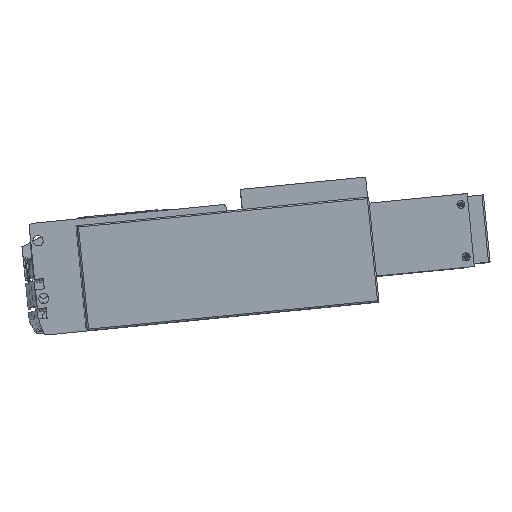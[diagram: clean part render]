
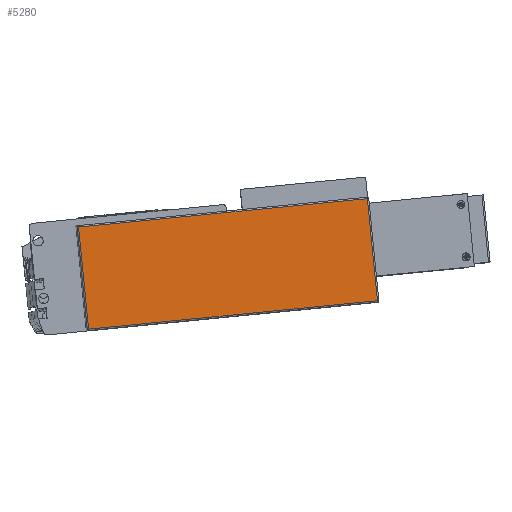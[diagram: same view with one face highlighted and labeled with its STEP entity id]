
A CAD part, top view. The second image highlights one B-rep face of the part: STEP entity #5280.
In plain terms, the highlighted planar face has unit normal (0.017, 0.003, 1) as drawn and (0, 0, 1) by its records, which use the part's own axes.
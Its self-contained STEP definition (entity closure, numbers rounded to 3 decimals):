
#5175 = EDGE_LOOP ( 'NONE', ( #5246, #5282, #5287, #5224 ) ) ;
#5176 = VERTEX_POINT ( 'NONE', #20869 ) ;
#5218 = VERTEX_POINT ( 'NONE', #20882 ) ;
#5223 = EDGE_CURVE ( 'NONE', #5291, #5218, #20932, .T. ) ;
#5224 = ORIENTED_EDGE ( 'NONE', *, *, #5288, .T. ) ;
#5228 = VERTEX_POINT ( 'NONE', #20927 ) ;
#5230 = EDGE_CURVE ( 'NONE', #5176, #5228, #20925, .T. ) ;
#5233 = EDGE_CURVE ( 'NONE', #5218, #5176, #20910, .T. ) ;
#5246 = ORIENTED_EDGE ( 'NONE', *, *, #5223, .T. ) ;
#5280 = ADVANCED_FACE ( 'NONE', ( #21018 ), #21027, .T. ) ;
#5282 = ORIENTED_EDGE ( 'NONE', *, *, #5233, .T. ) ;
#5287 = ORIENTED_EDGE ( 'NONE', *, *, #5230, .T. ) ;
#5288 = EDGE_CURVE ( 'NONE', #5228, #5291, #21063, .T. ) ;
#5291 = VERTEX_POINT ( 'NONE', #21051 ) ;
#20869 = CARTESIAN_POINT ( 'NONE',  ( 163.25, 71., 44. ) ) ;
#20882 = CARTESIAN_POINT ( 'NONE',  ( 163.25, 1., 44. ) ) ;
#20907 = DIRECTION ( 'NONE',  ( 0., 1., 0. ) ) ;
#20908 = VECTOR ( 'NONE', #20907, 1000. ) ;
#20909 = CARTESIAN_POINT ( 'NONE',  ( 163.25, 72., 44. ) ) ;
#20910 = LINE ( 'NONE', #20909, #20908 ) ;
#20920 = DIRECTION ( 'NONE',  ( -1., 0., 0. ) ) ;
#20921 = VECTOR ( 'NONE', #20920, 1000. ) ;
#20922 = CARTESIAN_POINT ( 'NONE',  ( -35.75, 71., 44. ) ) ;
#20925 = LINE ( 'NONE', #20922, #20921 ) ;
#20927 = CARTESIAN_POINT ( 'NONE',  ( -34.75, 71., 44. ) ) ;
#20929 = DIRECTION ( 'NONE',  ( 1., 0., 0. ) ) ;
#20930 = VECTOR ( 'NONE', #20929, 1000. ) ;
#20931 = CARTESIAN_POINT ( 'NONE',  ( 164.25, 1., 44. ) ) ;
#20932 = LINE ( 'NONE', #20931, #20930 ) ;
#21016 = DIRECTION ( 'NONE',  ( 0., 0., 1. ) ) ;
#21018 = FACE_OUTER_BOUND ( 'NONE', #5175, .T. ) ;
#21024 = AXIS2_PLACEMENT_3D ( 'NONE', #21079, #21016, #21067 ) ;
#21027 = PLANE ( 'NONE',  #21024 ) ;
#21051 = CARTESIAN_POINT ( 'NONE',  ( -34.75, 1., 44. ) ) ;
#21053 = DIRECTION ( 'NONE',  ( 0., -1., 0. ) ) ;
#21054 = VECTOR ( 'NONE', #21053, 1000. ) ;
#21055 = CARTESIAN_POINT ( 'NONE',  ( -34.75, 0., 44. ) ) ;
#21063 = LINE ( 'NONE', #21055, #21054 ) ;
#21067 = DIRECTION ( 'NONE',  ( 1., 0., 0. ) ) ;
#21079 = CARTESIAN_POINT ( 'NONE',  ( -35.75, 0., 44. ) ) ;
